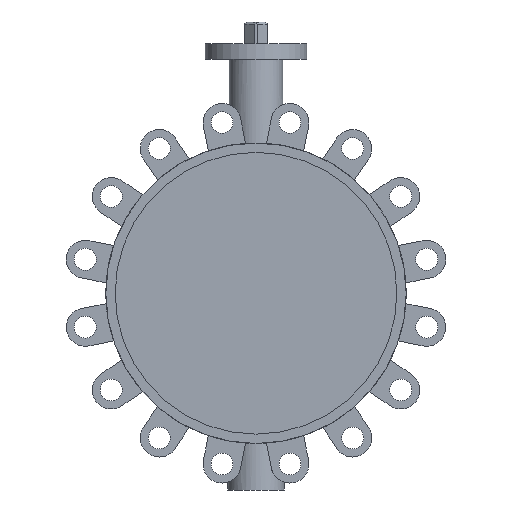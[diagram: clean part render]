
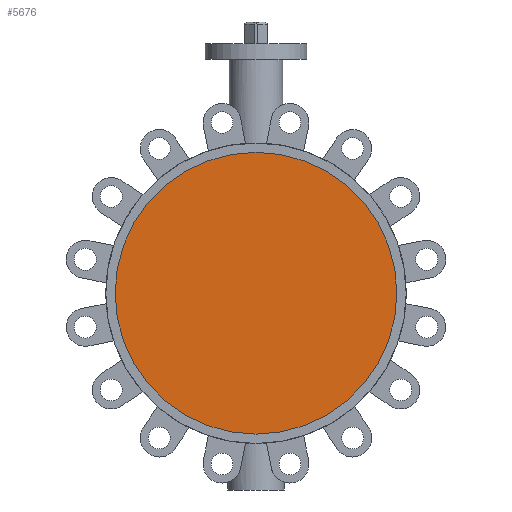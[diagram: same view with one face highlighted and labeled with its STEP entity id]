
A CAD part, front view. The second image highlights one B-rep face of the part: STEP entity #5676.
In plain terms, the highlighted planar face has unit normal (0, -1, 0).
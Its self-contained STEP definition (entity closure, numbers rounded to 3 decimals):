
#918 = CARTESIAN_POINT ( 'NONE',  ( 0., -41., 0. ) ) ;
#971 = AXIS2_PLACEMENT_3D ( 'NONE', #1008, #2028, #5236 ) ;
#1008 = CARTESIAN_POINT ( 'NONE',  ( 0., -41., 0. ) ) ;
#1013 = AXIS2_PLACEMENT_3D ( 'NONE', #918, #5244, #2891 ) ;
#1407 = DIRECTION ( 'NONE',  ( 0., 0., 1. ) ) ;
#1733 = EDGE_LOOP ( 'NONE', ( #3297, #1953 ) ) ;
#1798 = CIRCLE ( 'NONE', #2979, 174. ) ;
#1953 = ORIENTED_EDGE ( 'NONE', *, *, #3242, .F. ) ;
#2028 = DIRECTION ( 'NONE',  ( 0., 1., 0. ) ) ;
#2129 = CARTESIAN_POINT ( 'NONE',  ( 0., -41., -174. ) ) ;
#2834 = EDGE_CURVE ( 'NONE', #4392, #6064, #1798, .T. ) ;
#2891 = DIRECTION ( 'NONE',  ( 0., 0., 1. ) ) ;
#2979 = AXIS2_PLACEMENT_3D ( 'NONE', #4219, #4192, #1407 ) ;
#3242 = EDGE_CURVE ( 'NONE', #6064, #4392, #3668, .T. ) ;
#3297 = ORIENTED_EDGE ( 'NONE', *, *, #2834, .F. ) ;
#3581 = CARTESIAN_POINT ( 'NONE',  ( 0., -41., 174. ) ) ;
#3668 = CIRCLE ( 'NONE', #1013, 174. ) ;
#3810 = FACE_OUTER_BOUND ( 'NONE', #1733, .T. ) ;
#3874 = PLANE ( 'NONE',  #971 ) ;
#4192 = DIRECTION ( 'NONE',  ( 0., 1., 0. ) ) ;
#4219 = CARTESIAN_POINT ( 'NONE',  ( 0., -41., 0. ) ) ;
#4392 = VERTEX_POINT ( 'NONE', #2129 ) ;
#5236 = DIRECTION ( 'NONE',  ( 0., 0., 1. ) ) ;
#5244 = DIRECTION ( 'NONE',  ( 0., 1., 0. ) ) ;
#5676 = ADVANCED_FACE ( 'NONE', ( #3810 ), #3874, .F. ) ;
#6064 = VERTEX_POINT ( 'NONE', #3581 ) ;
